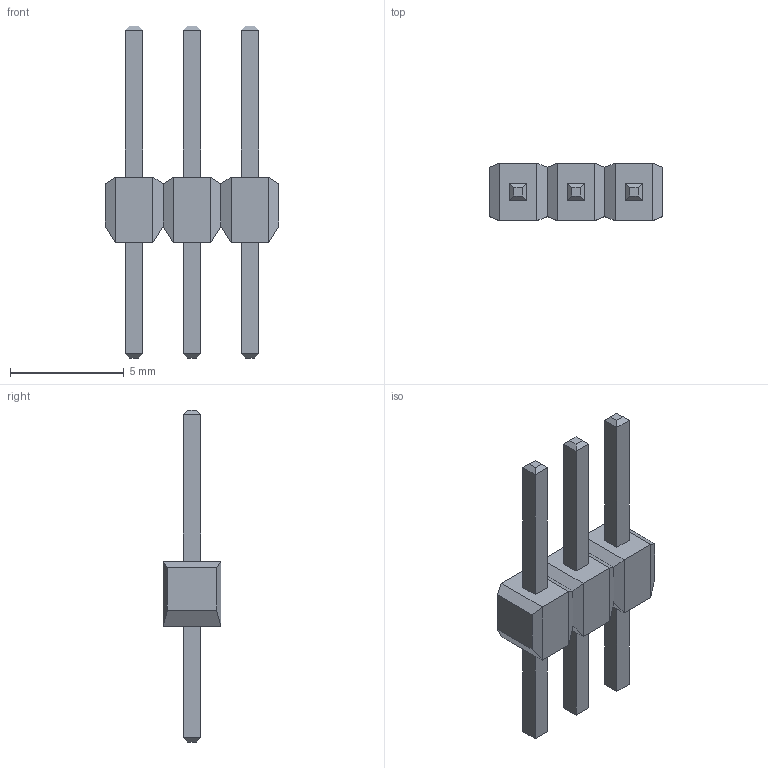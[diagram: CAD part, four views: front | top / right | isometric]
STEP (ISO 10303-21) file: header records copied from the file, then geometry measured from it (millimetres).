
FILE_DESCRIPTION(('STEP AP214'),'1');
FILE_NAME('CON3_1X3_P100UM_HDR_TYC','2021-11-21T13:00:28',(''),(''),'','','');
FILE_SCHEMA(('AUTOMOTIVE_DESIGN'));
Length unit declared in the file: millimetre
Products named in the file (1): product
Bounding box: 7.62 x 2.54 x 14.58 mm (x, y, z)
Volume: 71 mm3; surface area: 206.3 mm2
Topology: 7 solids, 7 shells, 98 faces, 196 edges, 112 vertices
Faces by surface type: plane 98
Entity records: 2353 total; most frequent: DIRECTION 394, ORIENTED_EDGE 392, CARTESIAN_POINT 211, EDGE_CURVE 196, LINE 196, VECTOR 196, VERTEX_POINT 112, AXIS2_PLACEMENT_3D 99
